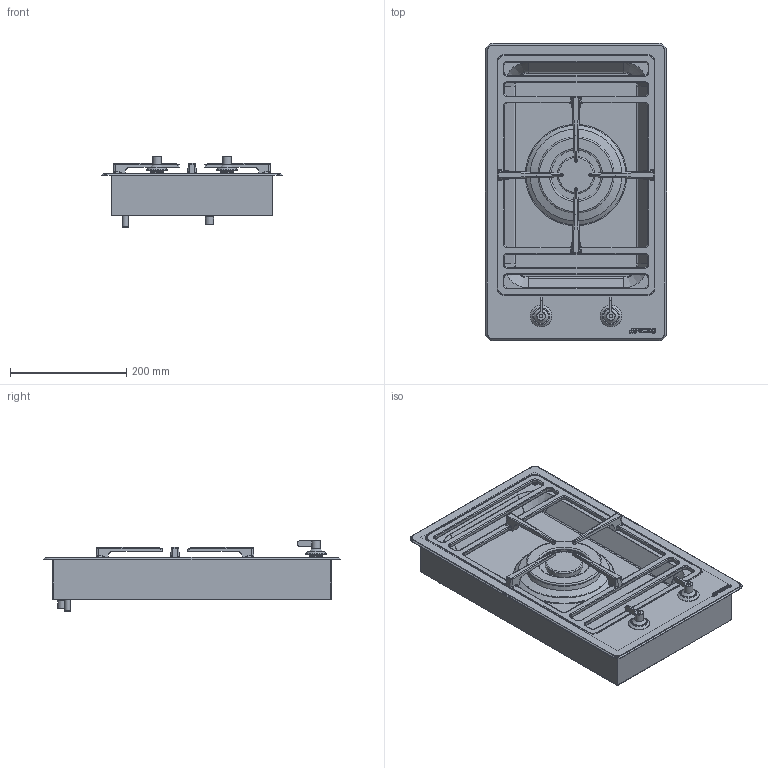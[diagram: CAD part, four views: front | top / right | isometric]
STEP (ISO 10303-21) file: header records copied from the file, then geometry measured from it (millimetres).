
FILE_DESCRIPTION(/* description */ (''),/* implementation_level */ '2;1');
FILE_NAME(/* name */ 'piano pgf31.stp',/* time_stamp */ '2018-09-26T17:31:52+02:00',/* author */ (''),/* organization */ (''),/* preprocessor_version */ 'ST-DEVELOPER v16',/* originating_system */ 'SIEMENS PLM Software NX 11.0',/* authorisation */ '');
FILE_SCHEMA (('AUTOMOTIVE_DESIGN { 1 0 10303 214 3 1 1 1 }'));
Length unit declared in the file: millimetre
Products named in the file (1): gobbBF78A5B6niv3
Bounding box: 311.6 x 511.6 x 121.5 mm (x, y, z)
Volume: 1137084.3 mm3; surface area: 1094496.5 mm2
Topology: 24 solids, 24 shells, 779 faces, 1835 edges, 1103 vertices
Faces by surface type: plane 268, cylinder 214, torus 125, cone 75, bspline 74, sphere 12, extrusion 11
Full cylindrical faces by diameter (mm): 1 x8, 3.5 x4, 3.988 x6, 4 x4, 6 x2, 8 x1, 10 x1, 14 x2, 14.996 x2, 17 x2, 20 x2, 22 x2, 63.5 x1, 63.9 x1, 86.2 x1, 92 x1, 131 x1, 158 x1
Entity records: 31249 total; most frequent: CARTESIAN_POINT 14531, DIRECTION 3384, ORIENTED_EDGE 3380, EDGE_CURVE 1690, AXIS2_PLACEMENT_3D 1347, VERTEX_POINT 1082, EDGE_LOOP 920, ADVANCED_FACE 779
